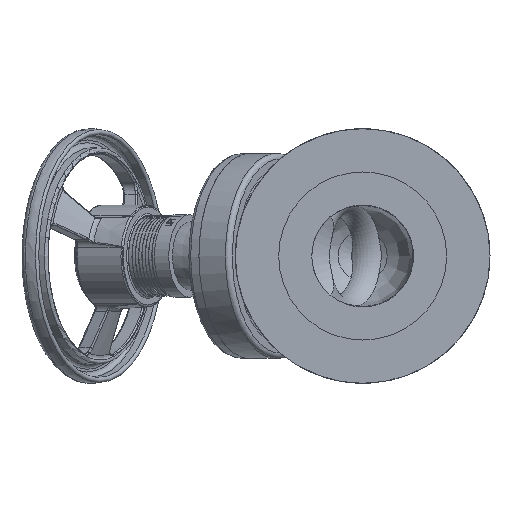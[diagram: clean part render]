
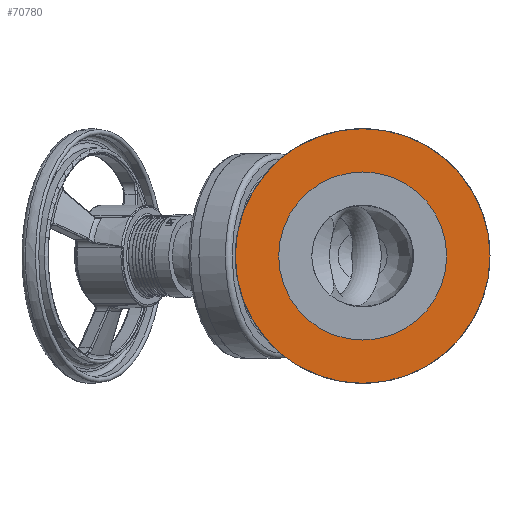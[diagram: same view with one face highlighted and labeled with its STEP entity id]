
A CAD part, left-side view. The second image highlights one B-rep face of the part: STEP entity #70780.
In plain terms, the highlighted planar face has unit normal (-1, 0, 0).
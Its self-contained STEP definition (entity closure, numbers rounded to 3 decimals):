
#62677=CARTESIAN_POINT('',(-307.,-100.,0.0));
#62678=VERTEX_POINT('',#62677);
#62679=CARTESIAN_POINT('',(-307.,0.,0.0));
#62680=DIRECTION('',(-1.0,0.0,0.0));
#62681=DIRECTION('',(0.0,-1.0,0.0));
#62682=AXIS2_PLACEMENT_3D('',#62679,#62680,#62681);
#62683=CIRCLE('',#62682,100.);
#62684=EDGE_CURVE('',#62678,#62678,#62683,.T.);
#70761=CARTESIAN_POINT('',(-307.,-83.,0.0));
#70762=DIRECTION('',(-1.0,0.0,0.0));
#70763=DIRECTION('',(0.0,0.0,1.0));
#70764=AXIS2_PLACEMENT_3D('',#70761,#70762,#70763);
#70765=PLANE('',#70764);
#70766=ORIENTED_EDGE('',*,*,#62684,.T.);
#70767=EDGE_LOOP('',(#70766));
#70768=FACE_OUTER_BOUND('',#70767,.T.);
#70769=CARTESIAN_POINT('',(-307.,-66.,0.0));
#70770=VERTEX_POINT('',#70769);
#70771=CARTESIAN_POINT('',(-307.,0.,0.0));
#70772=DIRECTION('',(-1.0,0.0,0.0));
#70773=DIRECTION('',(0.0,-1.0,0.0));
#70774=AXIS2_PLACEMENT_3D('',#70771,#70772,#70773);
#70775=CIRCLE('',#70774,66.);
#70776=EDGE_CURVE('',#70770,#70770,#70775,.T.);
#70777=ORIENTED_EDGE('',*,*,#70776,.F.);
#70778=EDGE_LOOP('',(#70777));
#70779=FACE_BOUND('',#70778,.T.);
#70780=ADVANCED_FACE('',(#70768,#70779),#70765,.T.);
